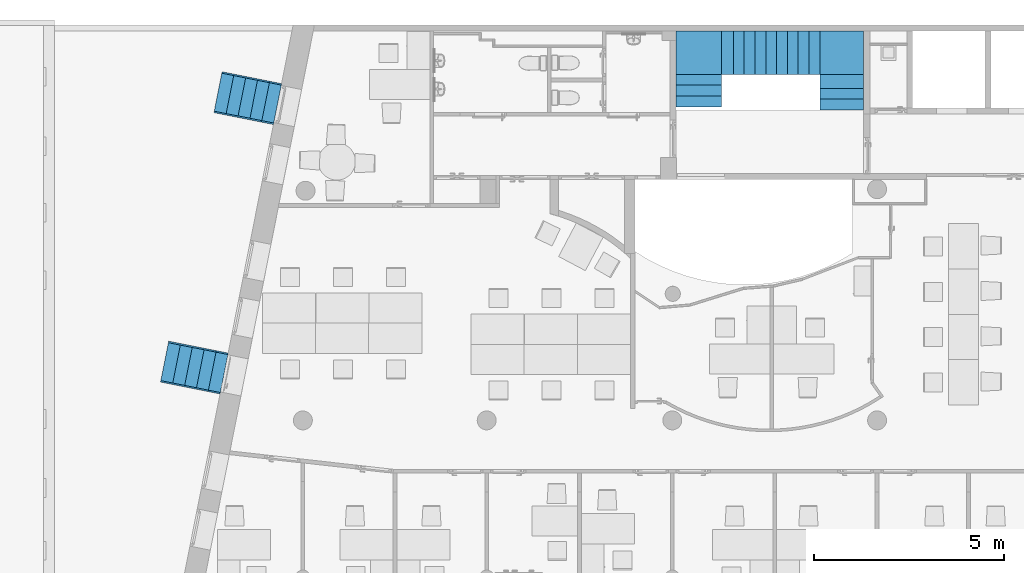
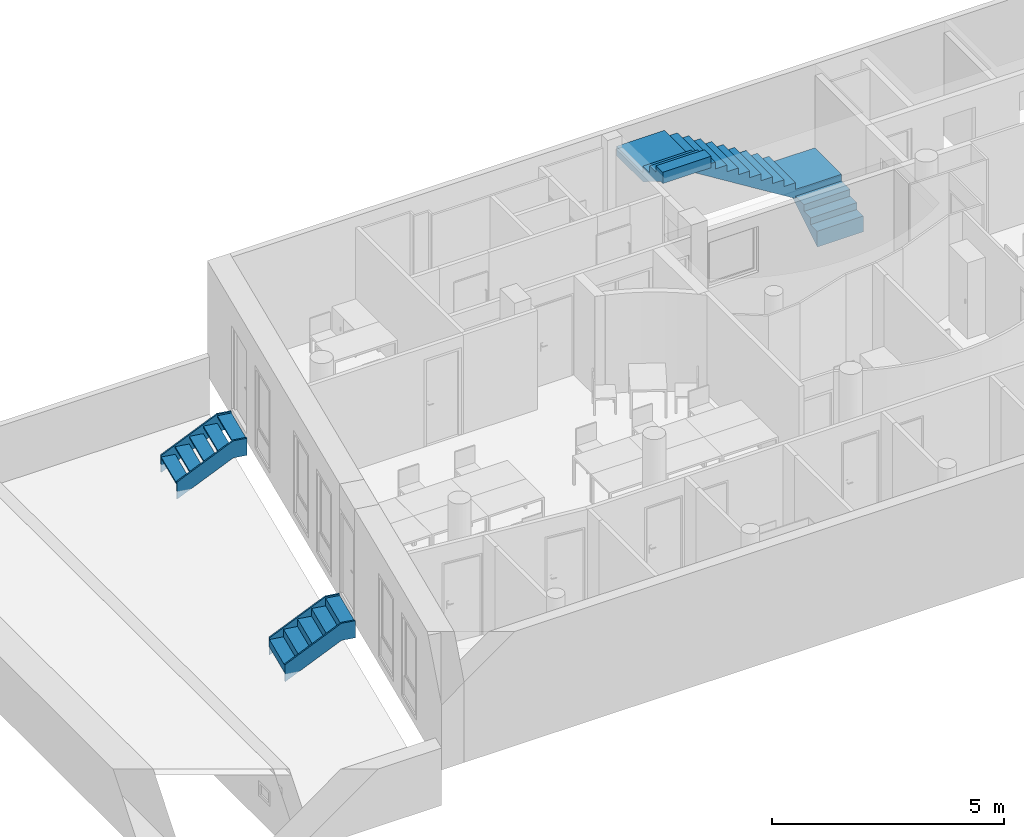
"""IFC4 building model written with IfcOpenShell, lengths in metres."""

from ifc_helpers import new_model, entity, si_unit, converted_unit, derived_unit, frame, origin, place, context, subcontext, project, spatial, faceted_brep, material, element, save


model = new_model("IFC4")

# Units and contexts
model_context = context("Model", 3, precision=1e-05, world=origin())
body_context = subcontext(model_context, "Body", "Model", "MODEL_VIEW")
ifc_project = project(units=[si_unit("LENGTHUNIT", "METRE"), si_unit("AREAUNIT", "SQUARE_METRE"), si_unit("VOLUMEUNIT", "CUBIC_METRE"), si_unit("MASSUNIT", "GRAM", prefix="KILO"), converted_unit("PLANEANGLEUNIT", "DEGREE", entity("IfcPlaneAngleMeasure", 0.0174532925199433), si_unit("PLANEANGLEUNIT", "RADIAN"), dimensions=[0, 0, 0, 0, 0, 0, 0]), derived_unit("THERMALTRANSMITTANCEUNIT", [(si_unit("POWERUNIT", "WATT"), 1), (si_unit("THERMODYNAMICTEMPERATUREUNIT", "KELVIN"), -1), (si_unit("LENGTHUNIT", "METRE"), -2)]), derived_unit("VOLUMETRICFLOWRATEUNIT", [(si_unit("LENGTHUNIT", "METRE"), 3), (converted_unit("TIMEUNIT", "hour", entity("IfcTimeMeasure", 3600.0), si_unit("TIMEUNIT", "SECOND"), dimensions=[0, 0, 1, 0, 0, 0, 0]), -1), (si_unit("LENGTHUNIT", "METRE"), -1)])], contexts=[model_context])

# Building, storeys
building_placement = place(None, origin())
building = spatial("IfcBuilding", under=ifc_project, at=building_placement, Name="HABITATGE PLURIFAMILIAR", CompositionType="ELEMENT")
storey_1_placement = place(building_placement, frame((0.0, 0.0, 6.25)))
storey_1 = spatial("IfcBuildingStorey", under=building, at=storey_1_placement, Name="PLANTA PRIMERA", CompositionType="ELEMENT", Elevation=6.25)
storey_2_placement = place(storey_1_placement, frame((0.0, 0.0, 3.35)))
storey_2 = spatial("IfcBuildingStorey", under=storey_1, at=storey_2_placement, Name="NOU", CompositionType="PARTIAL")

# Stairs
stair_1_placement = place(storey_2_placement, frame((410.827766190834, 25.9903256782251, -3.59006483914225)))
element("IfcStair", 1, at=stair_1_placement, inside=storey_2, Name="Escala P1", PredefinedType="NOTDEFINED", context=body_context, shape_type="Brep", body=[
    faceted_brep([(3.79890759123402, 0.000171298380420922, 0.377123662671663), (3.79890759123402, 0.000171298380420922, 0.417123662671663), (4.94890757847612, 0.0, 0.417123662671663), (4.94890757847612, 0.0, 0.377123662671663), (4.94895003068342, 0.284999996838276, 0.417123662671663), (4.94895003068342, 0.284999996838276, 0.377123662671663), (3.79895004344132, 0.285171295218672, 0.417123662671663), (3.79895004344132, 0.285171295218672, 0.377123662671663)], [[[0, 1, 2, 3]], [[3, 2, 4, 5]], [[5, 4, 6, 7]], [[7, 6, 1, 0]], [[0, 3, 5, 7]], [[1, 6, 4, 2]]], orient=[[False], [False], [False], [False], [False], [False]]),
    faceted_brep([(3.79895004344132, 0.285171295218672, 0.554182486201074), (3.79895004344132, 0.285171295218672, 0.594182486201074), (4.94895003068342, 0.284999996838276, 0.594182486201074), (4.94895003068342, 0.284999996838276, 0.554182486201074), (4.94899248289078, 0.569999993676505, 0.594182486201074), (4.94899248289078, 0.569999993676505, 0.554182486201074), (3.79899249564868, 0.570171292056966, 0.594182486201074), (3.79899249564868, 0.570171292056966, 0.554182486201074)], [[[0, 1, 2, 3]], [[3, 2, 4, 5]], [[5, 4, 6, 7]], [[7, 6, 1, 0]], [[0, 3, 5, 7]], [[1, 6, 4, 2]]], orient=[[False], [False], [False], [False], [False], [False]]),
    faceted_brep([(3.79899249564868, 0.570171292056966, 0.731241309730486), (3.79899249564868, 0.570171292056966, 0.771241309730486), (4.94899248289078, 0.569999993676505, 0.771241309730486), (4.94899248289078, 0.569999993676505, 0.731241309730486), (4.9490472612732, 0.937750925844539, 0.771241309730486), (4.9490472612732, 0.937750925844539, 0.731241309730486), (3.79904727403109, 0.937922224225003, 0.771241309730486), (3.79904727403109, 0.937922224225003, 0.731241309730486)], [[[0, 1, 2, 3]], [[3, 2, 4, 5]], [[5, 4, 6, 7]], [[7, 6, 1, 0]], [[0, 3, 5, 7]], [[1, 6, 4, 2]]], orient=[[False], [False], [False], [False], [False], [False]]),
    faceted_brep([(4.9490472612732, 0.937750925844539, 0.731241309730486), (4.94899248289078, 0.569999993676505, 0.731241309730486), (3.79899249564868, 0.570171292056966, 0.731241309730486), (3.79904727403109, 0.937922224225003, 0.731241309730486), (4.94890757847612, 0.0, 0.0), (4.94890757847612, 0.0, 0.377123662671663), (4.94895003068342, 0.284999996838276, 0.377123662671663), (4.94895003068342, 0.284999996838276, 0.554182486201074), (4.94899248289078, 0.569999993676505, 0.554182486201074), (4.9490472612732, 0.937750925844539, 0.708300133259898), (4.94907740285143, 1.14010435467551, 0.708300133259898), (3.79899249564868, 0.570171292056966, 0.554182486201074), (3.79907741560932, 1.14027565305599, 0.708300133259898), (3.79904727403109, 0.937922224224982, 0.708300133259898), (3.79895004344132, 0.285171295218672, 0.554182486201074), (3.79895004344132, 0.285171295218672, 0.377123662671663), (3.79890759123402, 0.000171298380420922, 0.377123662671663), (3.79890759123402, 0.000171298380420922, 0.0)], [[[0, 1, 2, 3]], [[4, 5, 6, 7, 8, 1, 0, 9, 10]], [[1, 8, 11, 2]], [[12, 13, 3, 2, 11, 14, 15, 16, 17]], [[12, 17, 4, 10]], [[13, 12, 10, 9]], [[8, 7, 14, 11]], [[7, 6, 15, 14]], [[6, 5, 16, 15]], [[5, 4, 17, 16]], [[13, 9, 0, 3]]], orient=[[False], [False], [False], [False], [False], [False], [False], [False], [False], [False], [False]]),
    faceted_brep([(3.79904727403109, 0.937922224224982, 0.908300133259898), (3.79904727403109, 0.937922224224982, 0.948300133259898), (4.9490472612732, 0.937750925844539, 0.948300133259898), (4.9490472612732, 0.937750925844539, 0.908300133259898), (4.94921858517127, 2.08792222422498, 0.948300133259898), (4.94921858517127, 2.08792222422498, 0.908300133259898), (3.79904727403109, 2.08792222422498, 0.948300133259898), (3.79904727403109, 2.08792222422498, 0.908300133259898)], [[[0, 1, 2, 3]], [[3, 2, 4, 5]], [[5, 4, 6, 7]], [[7, 6, 1, 0]], [[0, 3, 5, 7]], [[1, 6, 4, 2]]], orient=[[False], [False], [False], [False], [False], [False]]),
    faceted_brep([(3.79904727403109, 0.937922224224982, 0.708300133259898), (3.79904727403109, 0.937922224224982, 0.908300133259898), (4.9490472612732, 0.937750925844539, 0.908300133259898), (4.9490472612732, 0.937750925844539, 0.708300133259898), (4.94921858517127, 2.08792222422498, 0.908300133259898), (4.94921858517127, 2.08792222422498, 0.708300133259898), (3.79904727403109, 2.08792222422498, 0.908300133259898), (3.79904727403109, 2.08792222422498, 0.708300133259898)], [[[0, 1, 2, 3]], [[3, 2, 4, 5]], [[5, 4, 6, 7]], [[7, 6, 1, 0]], [[0, 3, 5, 7]], [[1, 6, 4, 2]]], orient=[[False], [False], [False], [False], [False], [False]]),
    faceted_brep([(3.79904727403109, 0.937922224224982, 1.08535895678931), (3.79904727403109, 0.937922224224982, 1.12535895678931), (3.79904727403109, 2.08792222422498, 1.12535895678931), (3.79904727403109, 2.08792222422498, 1.08535895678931), (3.51404727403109, 2.08792222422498, 1.12535895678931), (3.51404727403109, 2.08792222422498, 1.08535895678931), (3.51404727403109, 0.937922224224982, 1.12535895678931), (3.51404727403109, 0.937922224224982, 1.08535895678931)], [[[0, 1, 2, 3]], [[3, 2, 4, 5]], [[5, 4, 6, 7]], [[7, 6, 1, 0]], [[0, 3, 5, 7]], [[1, 6, 4, 2]]], orient=[[False], [False], [False], [False], [False], [False]]),
    faceted_brep([(3.51404727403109, 0.937922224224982, 1.26241778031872), (3.51404727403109, 0.937922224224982, 1.30241778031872), (3.51404727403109, 2.08792222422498, 1.30241778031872), (3.51404727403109, 2.08792222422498, 1.26241778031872), (3.22904727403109, 2.08792222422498, 1.30241778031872), (3.22904727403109, 2.08792222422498, 1.26241778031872), (3.22904727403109, 0.937922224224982, 1.30241778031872), (3.22904727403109, 0.937922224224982, 1.26241778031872)], [[[0, 1, 2, 3]], [[3, 2, 4, 5]], [[5, 4, 6, 7]], [[7, 6, 1, 0]], [[0, 3, 5, 7]], [[1, 6, 4, 2]]], orient=[[False], [False], [False], [False], [False], [False]]),
    faceted_brep([(3.22904727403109, 0.937922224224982, 1.43947660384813), (3.22904727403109, 0.937922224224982, 1.47947660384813), (3.22904727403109, 2.08792222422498, 1.47947660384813), (3.22904727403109, 2.08792222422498, 1.43947660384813), (2.94404727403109, 2.08792222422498, 1.47947660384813), (2.94404727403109, 2.08792222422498, 1.43947660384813), (2.94404727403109, 0.937922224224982, 1.47947660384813), (2.94404727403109, 0.937922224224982, 1.43947660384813)], [[[0, 1, 2, 3]], [[3, 2, 4, 5]], [[5, 4, 6, 7]], [[7, 6, 1, 0]], [[0, 3, 5, 7]], [[1, 6, 4, 2]]], orient=[[False], [False], [False], [False], [False], [False]]),
    faceted_brep([(2.94404727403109, 0.937922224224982, 1.61653542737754), (2.94404727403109, 0.937922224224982, 1.65653542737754), (2.94404727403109, 2.08792222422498, 1.65653542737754), (2.94404727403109, 2.08792222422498, 1.61653542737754), (2.65904727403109, 2.08792222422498, 1.65653542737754), (2.65904727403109, 2.08792222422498, 1.61653542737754), (2.65904727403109, 0.937922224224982, 1.65653542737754), (2.65904727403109, 0.937922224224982, 1.61653542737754)], [[[0, 1, 2, 3]], [[3, 2, 4, 5]], [[5, 4, 6, 7]], [[7, 6, 1, 0]], [[0, 3, 5, 7]], [[1, 6, 4, 2]]], orient=[[False], [False], [False], [False], [False], [False]]),
    faceted_brep([(2.65904727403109, 0.937922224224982, 1.79359425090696), (2.65904727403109, 0.937922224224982, 1.83359425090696), (2.65904727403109, 2.08792222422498, 1.83359425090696), (2.65904727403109, 2.08792222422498, 1.79359425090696), (2.37404727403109, 2.08792222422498, 1.83359425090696), (2.37404727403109, 2.08792222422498, 1.79359425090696), (2.37404727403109, 0.937922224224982, 1.83359425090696), (2.37404727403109, 0.937922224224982, 1.79359425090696)], [[[0, 1, 2, 3]], [[3, 2, 4, 5]], [[5, 4, 6, 7]], [[7, 6, 1, 0]], [[0, 3, 5, 7]], [[1, 6, 4, 2]]], orient=[[False], [False], [False], [False], [False], [False]]),
    faceted_brep([(2.37404727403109, 0.937922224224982, 1.97065307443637), (2.37404727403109, 0.937922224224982, 2.01065307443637), (2.37404727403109, 2.08792222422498, 2.01065307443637), (2.37404727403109, 2.08792222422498, 1.97065307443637), (2.08904727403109, 2.08792222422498, 2.01065307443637), (2.08904727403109, 2.08792222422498, 1.97065307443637), (2.08904727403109, 0.937922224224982, 2.01065307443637), (2.08904727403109, 0.937922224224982, 1.97065307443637)], [[[0, 1, 2, 3]], [[3, 2, 4, 5]], [[5, 4, 6, 7]], [[7, 6, 1, 0]], [[0, 3, 5, 7]], [[1, 6, 4, 2]]], orient=[[False], [False], [False], [False], [False], [False]]),
    faceted_brep([(2.08904727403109, 0.937922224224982, 2.14771189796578), (2.08904727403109, 0.937922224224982, 2.18771189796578), (2.08904727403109, 2.08792222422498, 2.18771189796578), (2.08904727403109, 2.08792222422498, 2.14771189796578), (1.80404727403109, 2.08792222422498, 2.18771189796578), (1.80404727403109, 2.08792222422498, 2.14771189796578), (1.80404727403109, 0.937922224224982, 2.18771189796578), (1.80404727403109, 0.937922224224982, 2.14771189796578)], [[[0, 1, 2, 3]], [[3, 2, 4, 5]], [[5, 4, 6, 7]], [[7, 6, 1, 0]], [[0, 3, 5, 7]], [[1, 6, 4, 2]]], orient=[[False], [False], [False], [False], [False], [False]]),
    faceted_brep([(1.80404727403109, 0.937922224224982, 2.32477072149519), (1.80404727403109, 0.937922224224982, 2.36477072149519), (1.80404727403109, 2.08792222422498, 2.36477072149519), (1.80404727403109, 2.08792222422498, 2.32477072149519), (1.51904727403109, 2.08792222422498, 2.36477072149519), (1.51904727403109, 2.08792222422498, 2.32477072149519), (1.51904727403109, 0.937922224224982, 2.36477072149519), (1.51904727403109, 0.937922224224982, 2.32477072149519)], [[[0, 1, 2, 3]], [[3, 2, 4, 5]], [[5, 4, 6, 7]], [[7, 6, 1, 0]], [[0, 3, 5, 7]], [[1, 6, 4, 2]]], orient=[[False], [False], [False], [False], [False], [False]]),
    faceted_brep([(1.51904727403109, 0.937922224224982, 2.5018295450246), (1.51904727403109, 0.937922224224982, 2.5418295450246), (1.51904727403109, 2.08792222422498, 2.5418295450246), (1.51904727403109, 2.08792222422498, 2.5018295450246), (1.19984509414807, 2.08792222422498, 2.5418295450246), (1.19984509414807, 2.08792222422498, 2.5018295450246), (1.19984509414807, 0.937922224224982, 2.5418295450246), (1.19984509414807, 0.937922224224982, 2.5018295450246)], [[[0, 1, 2, 3]], [[3, 2, 4, 5]], [[5, 4, 6, 7]], [[7, 6, 1, 0]], [[0, 3, 5, 7]], [[1, 6, 4, 2]]], orient=[[False], [False], [False], [False], [False], [False]]),
    faceted_brep([(1.19984509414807, 2.08792222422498, 2.5018295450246), (1.51904727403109, 2.08792222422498, 2.5018295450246), (1.51904727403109, 0.937922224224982, 2.5018295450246), (1.19984509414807, 0.937922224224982, 2.5018295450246), (3.79904727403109, 2.08792222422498, 0.708300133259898), (3.79904727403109, 2.08792222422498, 1.08535895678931), (3.51404727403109, 2.08792222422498, 1.08535895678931), (3.51404727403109, 2.08792222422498, 1.26241778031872), (3.22904727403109, 2.08792222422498, 1.26241778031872), (3.22904727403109, 2.08792222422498, 1.43947660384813), (2.94404727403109, 2.08792222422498, 1.43947660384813), (2.94404727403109, 2.08792222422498, 1.61653542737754), (2.65904727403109, 2.08792222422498, 1.61653542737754), (2.65904727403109, 2.08792222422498, 1.79359425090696), (2.37404727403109, 2.08792222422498, 1.79359425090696), (2.37404727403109, 2.08792222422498, 1.97065307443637), (2.08904727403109, 2.08792222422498, 1.97065307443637), (2.08904727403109, 2.08792222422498, 2.14771189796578), (1.80404727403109, 2.08792222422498, 2.14771189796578), (1.80404727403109, 2.08792222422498, 2.32477072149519), (1.51904727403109, 2.08792222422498, 2.32477072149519), (1.19984509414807, 2.08792222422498, 2.47888836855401), (0.948942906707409, 2.08792222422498, 2.47888836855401), (3.79894290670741, 2.08792222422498, 0.708300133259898), (1.51904727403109, 0.937922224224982, 2.32477072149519), (3.79894290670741, 0.937922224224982, 0.708300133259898), (0.948942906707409, 0.937922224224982, 2.47888836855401), (1.19984509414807, 0.937922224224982, 2.47888836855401), (1.80404727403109, 0.937922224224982, 2.32477072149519), (1.80404727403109, 0.937922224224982, 2.14771189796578), (2.08904727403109, 0.937922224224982, 2.14771189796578), (2.08904727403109, 0.937922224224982, 1.97065307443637), (2.37404727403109, 0.937922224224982, 1.97065307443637), (2.37404727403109, 0.937922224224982, 1.79359425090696), (2.65904727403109, 0.937922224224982, 1.79359425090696), (2.65904727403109, 0.937922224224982, 1.61653542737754), (2.94404727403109, 0.937922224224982, 1.61653542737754), (2.94404727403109, 0.937922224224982, 1.43947660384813), (3.22904727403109, 0.937922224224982, 1.43947660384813), (3.22904727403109, 0.937922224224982, 1.26241778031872), (3.51404727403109, 0.937922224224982, 1.26241778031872), (3.51404727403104, 0.937922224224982, 1.08535895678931), (3.79904727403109, 0.937922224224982, 1.08535895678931), (3.79904727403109, 0.937922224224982, 0.708300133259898)], [[[0, 1, 2, 3]], [[4, 5, 6, 7, 8, 9, 10, 11, 12, 13, 14, 15, 16, 17, 18, 19, 20, 1, 0, 21, 22, 23]], [[1, 20, 24, 2]], [[25, 26, 27, 3, 2, 24, 28, 29, 30, 31, 32, 33, 34, 35, 36, 37, 38, 39, 40, 41, 42, 43]], [[4, 23, 25, 43]], [[26, 25, 23, 22]], [[27, 26, 22, 21]], [[20, 19, 28, 24]], [[19, 18, 29, 28]], [[18, 17, 30, 29]], [[17, 16, 31, 30]], [[16, 15, 32, 31]], [[15, 14, 33, 32]], [[14, 13, 34, 33]], [[13, 12, 35, 34]], [[12, 11, 36, 35]], [[11, 10, 37, 36]], [[10, 9, 38, 37]], [[9, 8, 39, 38]], [[8, 7, 40, 39]], [[7, 6, 41, 40]], [[6, 5, 42, 41]], [[5, 4, 43, 42]], [[27, 21, 0, 3]]], orient=[[False], [False], [False], [False], [False], [False], [False], [False], [False], [False], [False], [False], [False], [False], [False], [False], [False], [False], [False], [False], [False], [False], [False], [False]]),
    faceted_brep([(1.19984509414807, 0.937922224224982, 2.67888836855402), (1.19984509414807, 0.937922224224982, 2.71888836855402), (1.19984509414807, 2.08792222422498, 2.71888836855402), (1.19984509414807, 2.08792222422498, 2.67888836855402), (0.0, 2.08792222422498, 2.71888836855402), (0.0, 2.08792222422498, 2.67888836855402), (0.0, 0.937922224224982, 2.71888836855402), (0.0, 0.937922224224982, 2.67888836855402)], [[[0, 1, 2, 3]], [[3, 2, 4, 5]], [[5, 4, 6, 7]], [[7, 6, 1, 0]], [[0, 3, 5, 7]], [[1, 6, 4, 2]]], orient=[[False], [False], [False], [False], [False], [False]]),
    faceted_brep([(1.19984509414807, 0.937922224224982, 2.47888836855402), (1.19984509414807, 0.937922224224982, 2.67888836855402), (1.19984509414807, 2.08792222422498, 2.67888836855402), (1.19984509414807, 2.08792222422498, 2.47888836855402), (0.0, 2.08792222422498, 2.67888836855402), (0.0, 2.08792222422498, 2.47888836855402), (0.0, 0.937922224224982, 2.67888836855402), (0.0, 0.937922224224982, 2.47888836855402)], [[[0, 1, 2, 3]], [[3, 2, 4, 5]], [[5, 4, 6, 7]], [[7, 6, 1, 0]], [[0, 3, 5, 7]], [[1, 6, 4, 2]]], orient=[[False], [False], [False], [False], [False], [False]]),
    faceted_brep([(1.19984509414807, 0.937922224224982, 2.85594719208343), (1.19984509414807, 0.937922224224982, 2.89594719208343), (0.0, 0.937922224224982, 2.89594719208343), (0.0, 0.937922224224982, 2.85594719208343), (0.0, 0.652922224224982, 2.89594719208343), (0.0, 0.652922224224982, 2.85594719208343), (1.19984509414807, 0.652922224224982, 2.89594719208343), (1.19984509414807, 0.652922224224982, 2.85594719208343)], [[[0, 1, 2, 3]], [[3, 2, 4, 5]], [[5, 4, 6, 7]], [[7, 6, 1, 0]], [[0, 3, 5, 7]], [[1, 6, 4, 2]]], orient=[[False], [False], [False], [False], [False], [False]]),
    faceted_brep([(1.19984509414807, 0.652922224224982, 3.03300601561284), (1.19984509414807, 0.652922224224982, 3.07300601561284), (0.0, 0.652922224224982, 3.07300601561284), (0.0, 0.652922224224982, 3.03300601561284), (0.0, 0.367922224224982, 3.07300601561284), (0.0, 0.367922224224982, 3.03300601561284), (1.19984509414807, 0.367922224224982, 3.07300601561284), (1.19984509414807, 0.367922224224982, 3.03300601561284)], [[[0, 1, 2, 3]], [[3, 2, 4, 5]], [[5, 4, 6, 7]], [[7, 6, 1, 0]], [[0, 3, 5, 7]], [[1, 6, 4, 2]]], orient=[[False], [False], [False], [False], [False], [False]]),
    faceted_brep([(1.19984509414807, 0.367922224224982, 3.21006483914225), (1.19984509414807, 0.367922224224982, 3.25006483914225), (0.0, 0.367922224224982, 3.25006483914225), (0.0, 0.367922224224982, 3.21006483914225), (0.0, 0.0829222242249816, 3.25006483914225), (0.0, 0.0829222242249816, 3.21006483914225), (1.19984509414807, 0.0829222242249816, 3.25006483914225), (1.19984509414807, 0.0829222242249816, 3.21006483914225)], [[[0, 1, 2, 3]], [[3, 2, 4, 5]], [[5, 4, 6, 7]], [[7, 6, 1, 0]], [[0, 3, 5, 7]], [[1, 6, 4, 2]]], orient=[[False], [False], [False], [False], [False], [False]]),
    faceted_brep([(0.0, 0.0829222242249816, 3.21006483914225), (0.0, 0.367922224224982, 3.21006483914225), (1.19984509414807, 0.367922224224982, 3.21006483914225), (1.19984509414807, 0.0829222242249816, 3.21006483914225), (0.0, 0.937922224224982, 2.47888836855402), (0.0, 0.937922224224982, 2.85594719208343), (0.0, 0.652922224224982, 2.85594719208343), (0.0, 0.652922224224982, 3.03300601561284), (0.0, 0.367922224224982, 3.03300601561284), (0.0, 0.0829222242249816, 2.95006483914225), (0.0, 0.179395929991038, 2.95006483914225), (0.0, 0.93781785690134, 2.47888836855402), (1.19984509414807, 0.367922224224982, 3.03300601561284), (1.19984509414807, 0.93781785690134, 2.47888836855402), (1.19984509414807, 0.179395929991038, 2.95006483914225), (1.19984509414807, 0.0829222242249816, 2.95006483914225), (1.19984509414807, 0.652922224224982, 3.03300601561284), (1.19984509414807, 0.652922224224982, 2.85594719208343), (1.19984509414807, 0.937922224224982, 2.85594719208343), (1.19984509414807, 0.937922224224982, 2.47888836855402)], [[[0, 1, 2, 3]], [[4, 5, 6, 7, 8, 1, 0, 9, 10, 11]], [[1, 8, 12, 2]], [[13, 14, 15, 3, 2, 12, 16, 17, 18, 19]], [[4, 11, 13, 19]], [[14, 13, 11, 10]], [[15, 14, 10, 9]], [[8, 7, 16, 12]], [[7, 6, 17, 16]], [[6, 5, 18, 17]], [[5, 4, 19, 18]], [[15, 9, 0, 3]]], orient=[[False], [False], [False], [False], [False], [False], [False], [False], [False], [False], [False], [False]]),
])
stair_2_placement = place(storey_2_placement, frame((398.641607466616, 25.6062875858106, -4.59)))
element("IfcStair", 2, at=stair_2_placement, inside=storey_2, Name="Escala P1", PredefinedType="NOTDEFINED", context=body_context, shape_type="Brep", body=[
    faceted_brep([(0.207344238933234, 1.35249557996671, 0.37), (0.207344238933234, 1.35249557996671, 0.41), (0.0078243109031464, 0.352199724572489, 0.41), (0.0078243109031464, 0.352199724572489, 0.37), (0.32164261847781, 0.289605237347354, 0.41), (0.32164261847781, 0.289605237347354, 0.37), (0.521162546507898, 1.28990109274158, 0.41), (0.521162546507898, 1.28990109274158, 0.37)], [[[0, 1, 2, 3]], [[3, 2, 4, 5]], [[5, 4, 6, 7]], [[7, 6, 1, 0]], [[0, 3, 5, 7]], [[1, 6, 4, 2]]], orient=[[False], [False], [False], [False], [False], [False]]),
    faceted_brep([(0.521162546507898, 1.28990109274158, 0.57), (0.521162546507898, 1.28990109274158, 0.61), (0.32164261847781, 0.289605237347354, 0.61), (0.32164261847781, 0.289605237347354, 0.57), (0.635460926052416, 0.227010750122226, 0.61), (0.635460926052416, 0.227010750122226, 0.57), (0.834980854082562, 1.22730660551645, 0.61), (0.834980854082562, 1.22730660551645, 0.57)], [[[0, 1, 2, 3]], [[3, 2, 4, 5]], [[5, 4, 6, 7]], [[7, 6, 1, 0]], [[0, 3, 5, 7]], [[1, 6, 4, 2]]], orient=[[False], [False], [False], [False], [False], [False]]),
    faceted_brep([(0.834980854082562, 1.22730660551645, 0.77), (0.834980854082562, 1.22730660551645, 0.81), (0.635460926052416, 0.227010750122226, 0.81), (0.635460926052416, 0.227010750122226, 0.77), (0.94927923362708, 0.164416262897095, 0.81), (0.94927923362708, 0.164416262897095, 0.77), (1.14879916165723, 1.16471211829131, 0.81), (1.14879916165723, 1.16471211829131, 0.77)], [[[0, 1, 2, 3]], [[3, 2, 4, 5]], [[5, 4, 6, 7]], [[7, 6, 1, 0]], [[0, 3, 5, 7]], [[1, 6, 4, 2]]], orient=[[False], [False], [False], [False], [False], [False]]),
    faceted_brep([(1.14879916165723, 1.16471211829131, 0.97), (1.14879916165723, 1.16471211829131, 1.01), (0.94927923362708, 0.164416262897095, 1.01), (0.94927923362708, 0.164416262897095, 0.97), (1.26309754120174, 0.101821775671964, 1.01), (1.26309754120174, 0.101821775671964, 0.97), (1.46261746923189, 1.10211763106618, 1.01), (1.46261746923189, 1.10211763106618, 0.97)], [[[0, 1, 2, 3]], [[3, 2, 4, 5]], [[5, 4, 6, 7]], [[7, 6, 1, 0]], [[0, 3, 5, 7]], [[1, 6, 4, 2]]], orient=[[False], [False], [False], [False], [False], [False]]),
    faceted_brep([(1.46261746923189, 1.10211763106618, 1.17), (1.46261746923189, 1.10211763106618, 1.21), (1.26309754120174, 0.101821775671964, 1.21), (1.26309754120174, 0.101821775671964, 1.17), (1.57691584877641, 0.039227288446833, 1.21), (1.57691584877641, 0.039227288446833, 1.17), (1.77643577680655, 1.03952314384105, 1.21), (1.77643577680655, 1.03952314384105, 1.17)], [[[0, 1, 2, 3]], [[3, 2, 4, 5]], [[5, 4, 6, 7]], [[7, 6, 1, 0]], [[0, 3, 5, 7]], [[1, 6, 4, 2]]], orient=[[False], [False], [False], [False], [False], [False]]),
    faceted_brep([(1.46261746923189, 1.10211763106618, 1.25000000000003), (0.207344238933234, 1.35249557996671, 0.45), (0.21516854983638, 1.39172286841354, 0.45), (1.47044178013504, 1.14134491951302, 1.25000000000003), (1.77643577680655, 1.03952314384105, 1.25), (1.77643577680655, 1.03952314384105, 0.8), (1.46261746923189, 1.10211763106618, 0.800000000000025), (0.207344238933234, 1.35249557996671, 0.0), (1.47044178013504, 1.14134491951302, 0.800000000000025), (0.21516854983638, 1.39172286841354, 0.0), (1.7842600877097, 1.07875043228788, 0.8), (1.7842600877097, 1.07875043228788, 1.25)], [[[0, 1, 2, 3]], [[4, 5, 6, 7, 1, 0]], [[6, 8, 9, 7]], [[10, 11, 3, 2, 9, 8]], [[4, 0, 3, 11]], [[5, 10, 8, 6]], [[7, 9, 2, 1]], [[4, 11, 10, 5]]], orient=[[False], [False], [False], [False], [False], [False], [False], [False]]),
    faceted_brep([(1.25527323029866, 0.0625944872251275, 1.24999999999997), (0.0, 0.312972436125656, 0.45), (0.0078243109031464, 0.352199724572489, 0.45), (1.2630975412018, 0.10182177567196, 1.24999999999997), (1.56909153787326, 0.0, 1.25), (1.56909153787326, 0.0, 0.8), (1.25527323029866, 0.0625944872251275, 0.799999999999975), (0.0, 0.312972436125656, 0.0), (1.2630975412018, 0.10182177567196, 0.799999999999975), (0.0078243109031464, 0.352199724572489, 0.0), (1.57691584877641, 0.039227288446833, 0.8), (1.57691584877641, 0.039227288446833, 1.25)], [[[0, 1, 2, 3]], [[4, 5, 6, 7, 1, 0]], [[6, 8, 9, 7]], [[10, 11, 3, 2, 9, 8]], [[4, 0, 3, 11]], [[5, 10, 8, 6]], [[2, 1, 7, 9]], [[10, 5, 4, 11]]], orient=[[False], [False], [False], [False], [False], [False], [False], [False]]),
])
ifc_material = material(Name="*varios*")
stair_3_placement = place(storey_2_placement, frame((397.232666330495, 18.4971734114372, -4.59)))
element("IfcStair", 3, at=stair_3_placement, inside=storey_2, material=ifc_material, Name="Peldaño final", PredefinedType="STRAIGHT_RUN_STAIR", context=body_context, shape_type="Brep", body=[
    faceted_brep([(0.207344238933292, 1.35249557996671, 0.37), (0.207344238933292, 1.35249557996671, 0.41), (0.00782431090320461, 0.352199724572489, 0.41), (0.00782431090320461, 0.352199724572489, 0.37), (0.321642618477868, 0.289605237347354, 0.41), (0.321642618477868, 0.289605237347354, 0.37), (0.521162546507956, 1.28990109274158, 0.41), (0.521162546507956, 1.28990109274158, 0.37)], [[[0, 1, 2, 3]], [[3, 2, 4, 5]], [[5, 4, 6, 7]], [[7, 6, 1, 0]], [[0, 3, 5, 7]], [[1, 6, 4, 2]]], orient=[[False], [False], [False], [False], [False], [False]]),
    faceted_brep([(0.521162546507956, 1.28990109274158, 0.57), (0.521162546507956, 1.28990109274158, 0.61), (0.321642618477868, 0.289605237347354, 0.61), (0.321642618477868, 0.289605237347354, 0.57), (0.635460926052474, 0.227010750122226, 0.61), (0.635460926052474, 0.227010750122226, 0.57), (0.83498085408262, 1.22730660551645, 0.61), (0.83498085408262, 1.22730660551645, 0.57)], [[[0, 1, 2, 3]], [[3, 2, 4, 5]], [[5, 4, 6, 7]], [[7, 6, 1, 0]], [[0, 3, 5, 7]], [[1, 6, 4, 2]]], orient=[[False], [False], [False], [False], [False], [False]]),
    faceted_brep([(0.83498085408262, 1.22730660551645, 0.77), (0.83498085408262, 1.22730660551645, 0.81), (0.635460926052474, 0.227010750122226, 0.81), (0.635460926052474, 0.227010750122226, 0.77), (0.949279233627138, 0.164416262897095, 0.81), (0.949279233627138, 0.164416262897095, 0.77), (1.14879916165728, 1.16471211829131, 0.81), (1.14879916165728, 1.16471211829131, 0.77)], [[[0, 1, 2, 3]], [[3, 2, 4, 5]], [[5, 4, 6, 7]], [[7, 6, 1, 0]], [[0, 3, 5, 7]], [[1, 6, 4, 2]]], orient=[[False], [False], [False], [False], [False], [False]]),
    faceted_brep([(1.14879916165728, 1.16471211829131, 0.97), (1.14879916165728, 1.16471211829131, 1.01), (0.949279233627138, 0.164416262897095, 1.01), (0.949279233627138, 0.164416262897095, 0.97), (1.2630975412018, 0.101821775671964, 1.01), (1.2630975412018, 0.101821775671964, 0.97), (1.46261746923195, 1.10211763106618, 1.01), (1.46261746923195, 1.10211763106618, 0.97)], [[[0, 1, 2, 3]], [[3, 2, 4, 5]], [[5, 4, 6, 7]], [[7, 6, 1, 0]], [[0, 3, 5, 7]], [[1, 6, 4, 2]]], orient=[[False], [False], [False], [False], [False], [False]]),
    faceted_brep([(1.46261746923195, 1.10211763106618, 1.17), (1.46261746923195, 1.10211763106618, 1.21), (1.2630975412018, 0.101821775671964, 1.21), (1.2630975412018, 0.101821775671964, 1.17), (1.57691584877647, 0.039227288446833, 1.21), (1.57691584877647, 0.039227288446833, 1.17), (1.77643577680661, 1.03952314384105, 1.21), (1.77643577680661, 1.03952314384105, 1.17)], [[[0, 1, 2, 3]], [[3, 2, 4, 5]], [[5, 4, 6, 7]], [[7, 6, 1, 0]], [[0, 3, 5, 7]], [[1, 6, 4, 2]]], orient=[[False], [False], [False], [False], [False], [False]]),
    faceted_brep([(0.207344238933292, 1.35249557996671, 0.21), (0.207344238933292, 1.35249557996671, 0.37), (0.00782431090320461, 0.352199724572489, 0.37), (0.00782431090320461, 0.352199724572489, 0.21), (0.0470515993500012, 0.344375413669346, 0.37), (0.0470515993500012, 0.344375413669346, 0.21), (0.246571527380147, 1.34467126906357, 0.37), (0.246571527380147, 1.34467126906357, 0.21)], [[[0, 1, 2, 3]], [[3, 2, 4, 5]], [[5, 4, 6, 7]], [[7, 6, 1, 0]], [[0, 3, 5, 7]], [[1, 6, 4, 2]]], orient=[[False], [False], [False], [False], [False], [False]]),
    faceted_brep([(0.521162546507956, 1.28990109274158, 0.41), (0.521162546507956, 1.28990109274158, 0.57), (0.321642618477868, 0.289605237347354, 0.57), (0.321642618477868, 0.289605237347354, 0.41), (0.360869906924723, 0.281780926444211, 0.57), (0.360869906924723, 0.281780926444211, 0.41), (0.560389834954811, 1.28207678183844, 0.57), (0.560389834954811, 1.28207678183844, 0.41)], [[[0, 1, 2, 3]], [[3, 2, 4, 5]], [[5, 4, 6, 7]], [[7, 6, 1, 0]], [[0, 3, 5, 7]], [[1, 6, 4, 2]]], orient=[[False], [False], [False], [False], [False], [False]]),
    faceted_brep([(0.83498085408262, 1.22730660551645, 0.61), (0.83498085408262, 1.22730660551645, 0.77), (0.635460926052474, 0.227010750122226, 0.77), (0.635460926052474, 0.227010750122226, 0.61), (0.674688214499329, 0.219186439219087, 0.77), (0.674688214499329, 0.219186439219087, 0.61), (0.874208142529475, 1.2194822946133, 0.77), (0.874208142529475, 1.2194822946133, 0.61)], [[[0, 1, 2, 3]], [[3, 2, 4, 5]], [[5, 4, 6, 7]], [[7, 6, 1, 0]], [[0, 3, 5, 7]], [[1, 6, 4, 2]]], orient=[[False], [False], [False], [False], [False], [False]]),
    faceted_brep([(1.14879916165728, 1.16471211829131, 0.81), (1.14879916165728, 1.16471211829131, 0.97), (0.949279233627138, 0.164416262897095, 0.97), (0.949279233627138, 0.164416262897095, 0.81), (0.988506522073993, 0.156591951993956, 0.97), (0.988506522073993, 0.156591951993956, 0.81), (1.18802645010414, 1.15688780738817, 0.97), (1.18802645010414, 1.15688780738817, 0.81)], [[[0, 1, 2, 3]], [[3, 2, 4, 5]], [[5, 4, 6, 7]], [[7, 6, 1, 0]], [[0, 3, 5, 7]], [[1, 6, 4, 2]]], orient=[[False], [False], [False], [False], [False], [False]]),
    faceted_brep([(1.46261746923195, 1.10211763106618, 1.01), (1.46261746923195, 1.10211763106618, 1.17), (1.2630975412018, 0.101821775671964, 1.17), (1.2630975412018, 0.101821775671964, 1.01), (1.30232482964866, 0.0939974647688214, 1.17), (1.30232482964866, 0.0939974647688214, 1.01), (1.5018447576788, 1.09429332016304, 1.17), (1.5018447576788, 1.09429332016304, 1.01)], [[[0, 1, 2, 3]], [[3, 2, 4, 5]], [[5, 4, 6, 7]], [[7, 6, 1, 0]], [[0, 3, 5, 7]], [[1, 6, 4, 2]]], orient=[[False], [False], [False], [False], [False], [False]]),
    faceted_brep([(1.46261746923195, 1.10211763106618, 1.25000000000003), (0.207344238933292, 1.35249557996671, 0.45), (0.215168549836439, 1.39172286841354, 0.45), (1.47044178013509, 1.14134491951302, 1.25000000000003), (1.77643577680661, 1.03952314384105, 1.25), (1.77643577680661, 1.03952314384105, 0.8), (1.46261746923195, 1.10211763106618, 0.800000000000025), (0.207344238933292, 1.35249557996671, 0.0), (1.47044178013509, 1.14134491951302, 0.800000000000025), (0.215168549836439, 1.39172286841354, 0.0), (1.78426008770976, 1.07875043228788, 0.8), (1.78426008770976, 1.07875043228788, 1.25)], [[[0, 1, 2, 3]], [[4, 5, 6, 7, 1, 0]], [[6, 8, 9, 7]], [[10, 11, 3, 2, 9, 8]], [[4, 0, 3, 11]], [[5, 10, 8, 6]], [[7, 9, 2, 1]], [[4, 11, 10, 5]]], orient=[[False], [False], [False], [False], [False], [False], [False], [False]]),
    faceted_brep([(1.25527323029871, 0.0625944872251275, 1.24999999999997), (0.0, 0.312972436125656, 0.45), (0.00782431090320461, 0.352199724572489, 0.45), (1.26309754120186, 0.10182177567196, 1.24999999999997), (1.56909153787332, 0.0, 1.25), (1.56909153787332, 0.0, 0.8), (1.25527323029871, 0.0625944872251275, 0.799999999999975), (0.0, 0.312972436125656, 0.0), (1.26309754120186, 0.10182177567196, 0.799999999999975), (0.00782431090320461, 0.352199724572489, 0.0), (1.57691584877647, 0.039227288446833, 0.8), (1.57691584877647, 0.039227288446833, 1.25)], [[[0, 1, 2, 3]], [[4, 5, 6, 7, 1, 0]], [[6, 8, 9, 7]], [[10, 11, 3, 2, 9, 8]], [[4, 0, 3, 11]], [[5, 10, 8, 6]], [[2, 1, 7, 9]], [[10, 5, 4, 11]]], orient=[[False], [False], [False], [False], [False], [False], [False], [False]]),
])

save(model, "model.ifc")
